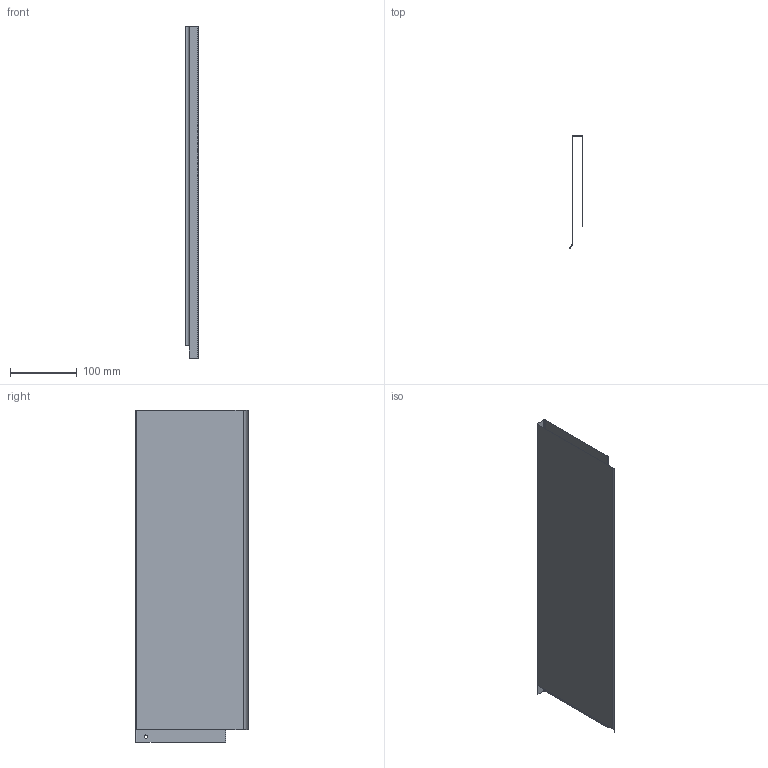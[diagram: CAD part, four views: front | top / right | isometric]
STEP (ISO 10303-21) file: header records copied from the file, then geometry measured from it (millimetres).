
FILE_DESCRIPTION (( 'STEP AP203' ), '1' );
FILE_NAME ('Nova Pro Duowing H186 HRW Classic rechts_NL500.step', '2014-02-14T11:57:45', ( 'test' ), ( '' ), 'SwSTEP 2.0', 'SolidWorks 2013', '' );
FILE_SCHEMA (( 'CONFIG_CONTROL_DESIGN' ));
Length unit declared in the file: millimetre
Products named in the file (1): Nova Pro Duowing H186 HRW Classic rechts_NL500
Bounding box: 20.72 x 169 x 497.5 mm (x, y, z)
Volume: 77821.6 mm3; surface area: 312110.9 mm2
Topology: 1 solids, 1 shells, 29 faces, 66 edges, 39 vertices
Faces by surface type: plane 20, cylinder 9
Entity records: 880 total; most frequent: DIRECTION 145, CARTESIAN_POINT 135, ORIENTED_EDGE 132, EDGE_CURVE 66, AXIS2_PLACEMENT_3D 49, VECTOR 47, LINE 47, VERTEX_POINT 39
